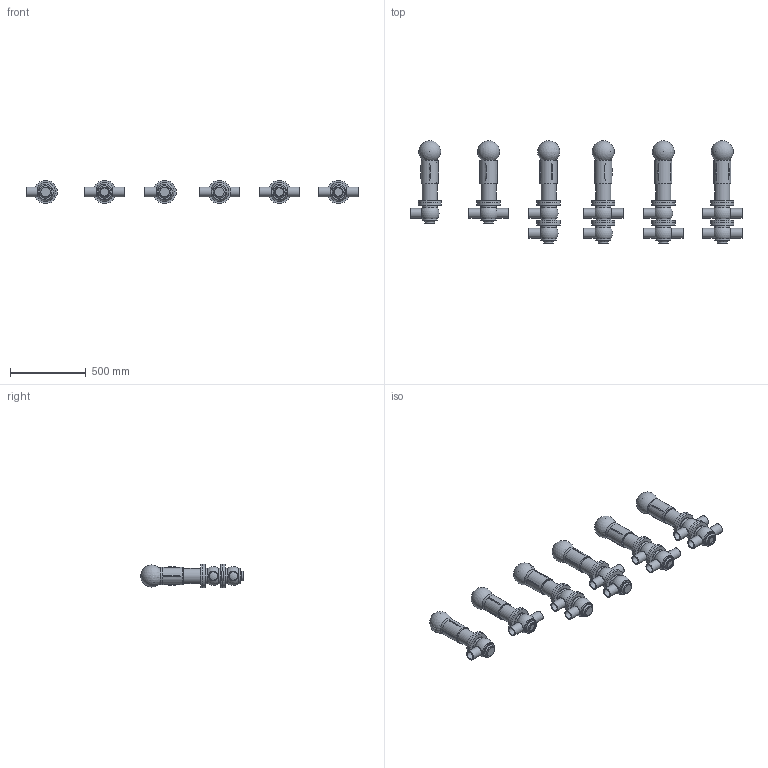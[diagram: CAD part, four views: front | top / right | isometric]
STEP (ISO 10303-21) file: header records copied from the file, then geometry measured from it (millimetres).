
FILE_DESCRIPTION(/* description */ (''),/* implementation_level */ '2;1');
FILE_NAME(/* name */ 'C:\Users\marz-m\Desktop\PDF\BBZQ 3D STEP\BBZQ-DN63.5-CIL.108.stp',/* time_stamp */ '2018-04-13T15:15:22+02:00',/* author */ ('marz-m'),/* organization */ (''),/* preprocessor_version */ 'ST-DEVELOPER v17',/* originating_system */ 'Autodesk Inventor 2018',/* authorisation */ '');
FILE_SCHEMA (('AUTOMOTIVE_DESIGN { 1 0 10303 214 3 1 1 }'));
Length unit declared in the file: millimetre
Products named in the file (8): BBZQ-DN63.5-CIL.108; ASSEMBLAGGIO-DN65-CIL108--156; CIL108; SAGOMA-GIOTTO-; COR-INF-L-BBZQ-DN63.5; CORPO SUP- DN63.5 L; CORPO SUP- DN63.5 T; COR-INF-T-BBZQ-DN63.5
Assembly tree (28 placements, depth 2):
  BBZQ-DN63.5-CIL.108
    ASSEMBLAGGIO-DN65-CIL108--156  x6
    COR-INF-L-BBZQ-DN63.5  x3
    COR-INF-T-BBZQ-DN63.5  x3
    CORPO SUP- DN63.5 L  x2
    CORPO SUP- DN63.5 T  x2
    CIL108  x6
    SAGOMA-GIOTTO-  x6
Bounding box: 2186.25 x 674.47 x 154 mm (x, y, z)
Volume: 30661861.2 mm3; surface area: 3252446.8 mm2
Topology: 28 solids, 34 shells, 422 faces, 1069 edges, 804 vertices
Faces by surface type: plane 124, cylinder 121, torus 74, cone 72, sphere 31
Full cylindrical faces by diameter (mm): 20 x12, 53.5 x18, 63.5 x21, 76 x6, 77 x6, 100 x6, 101 x20, 108.5 x6, 114 x6, 154 x20
Entity records: 4221 total; most frequent: CARTESIAN_POINT 919, DIRECTION 739, ORIENTED_EDGE 550, AXIS2_PLACEMENT_3D 348, EDGE_CURVE 275, VERTEX_POINT 208, CIRCLE 200, EDGE_LOOP 141
